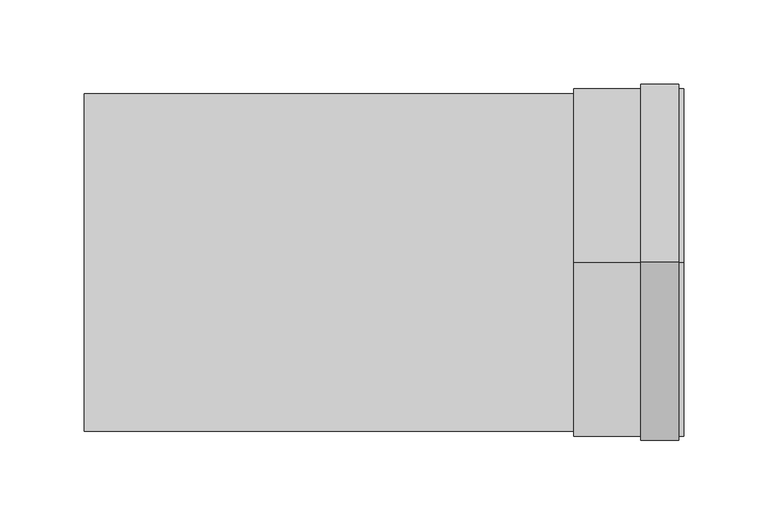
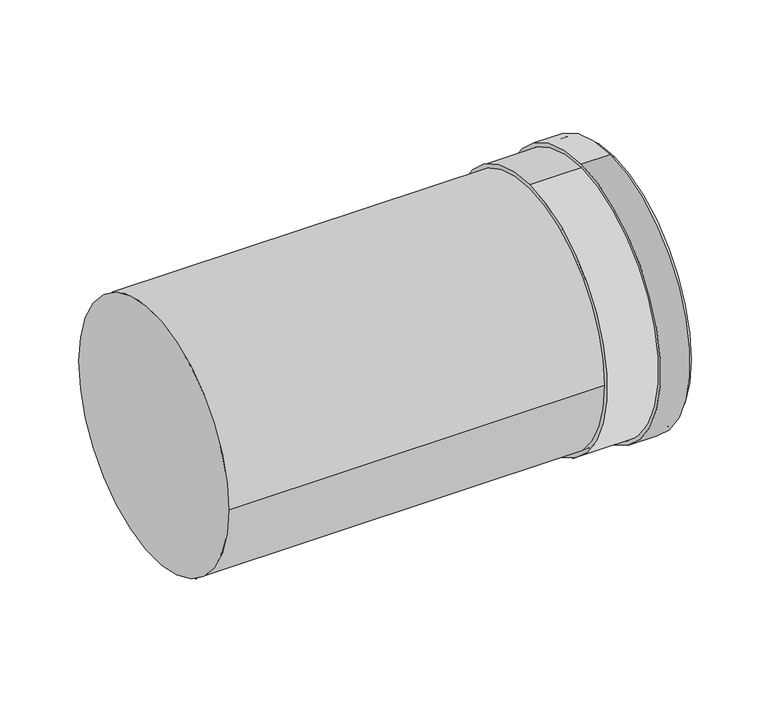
"""IFC4 building model written with IfcOpenShell, lengths in millimetres: duct fitting geometry, DERS_431_LFT_UN_Twinline Extension_M&G : ø130-150-200."""

from ifc_helpers import new_model, si_unit, point, frame, origin, origin_2d, place, context, project, spatial, polyline, circle_curve, trimmed, segment, composite_curve, outline, extrude, source, transform, mapped, element, save
from ifc_brep_helpers import plane_surface, cylinder_surface, revolved_surface, advanced_brep


def duct_fitting_61e90ce6(model_context):
    return source(origin(), model_context, "Body", "SolidModel", [
        extrude(outline(composite_curve([segment(trimmed(circle_curve(origin_2d(), 106.0), [point((0.0, 106.0))], [point((0.0, -106.0))], False, "CARTESIAN"), True, "CONTINUOUS"), segment(trimmed(circle_curve(origin_2d(), 106.0), [point((0.0, -106.0))], [point((0.0, 106.0))], False, "CARTESIAN"), True, "CONTINUOUS")], self_intersect=False), holes=[composite_curve([segment(trimmed(circle_curve(origin_2d(), 103.0), [point((0.0, -103.0))], [point((0.0, 103.0))], True, "CARTESIAN"), True, "CONTINUOUS"), segment(trimmed(circle_curve(origin_2d(), 103.0), [point((0.0, 103.0))], [point((0.0, -103.0))], True, "CARTESIAN"), True, "CONTINUOUS")], self_intersect=False)]), frame((329.4999761, 0.0, 0.0), z_axis=(1.0, 0.0, 0.0), x_axis=(0.0, 1.0, 0.0)), (0.0, 0.0, 1.0), 22.5),
        advanced_brep(
        [(354.9999761, 0.0, -103.0), (354.9999761, 0.0, 103.0), (354.9999761, 0.0, 99.0), (354.9999761, 0.0, -99.0), (289.9999761, 0.0, -103.0), (289.9999761, 0.0, 103.0), (294.9999761, 0.0, -99.0), (294.9999761, 0.0, 99.0)],
        [
            (0, 1, circle_curve(frame((354.9999761, 0.0, 0.0), z_axis=(1.0, 0.0, 0.0), x_axis=(0.0, 0.0, 1.0)), 103.0)),
            (1, 0, circle_curve(frame((354.9999761, 0.0, 0.0), z_axis=(1.0, 0.0, 0.0), x_axis=(0.0, 0.0, 1.0)), 103.0)),
            (2, 3, circle_curve(frame((354.9999761, 0.0, 0.0), z_axis=(-1.0, 0.0, 0.0), x_axis=(0.0, 0.0, 1.0)), 99.0)),
            (3, 2, circle_curve(frame((354.9999761, 0.0, 0.0), z_axis=(-1.0, 0.0, 0.0), x_axis=(0.0, 0.0, 1.0)), 99.0)),
            (4, 5, circle_curve(frame((289.9999761, 0.0, 0.0), z_axis=(-1.0, 0.0, 0.0), x_axis=(0.0, 0.0, 1.0)), 103.0)),
            (5, 4, circle_curve(frame((289.9999761, 0.0, 0.0), z_axis=(-1.0, 0.0, 0.0), x_axis=(0.0, 0.0, 1.0)), 103.0)),
            (0, 4),
            (5, 1),
            (6, 7, circle_curve(frame((294.9999761, 0.0, 0.0), z_axis=(1.0, 0.0, 0.0), x_axis=(0.0, 0.0, 1.0)), 99.0)),
            (7, 6, circle_curve(frame((294.9999761, 0.0, 0.0), z_axis=(1.0, 0.0, 0.0), x_axis=(0.0, 0.0, 1.0)), 99.0)),
            (6, 3),
            (2, 7),
        ],
        [
            plane_surface(frame((354.9999761, 0.0, 103.0), z_axis=(1.0, 0.0, 0.0), x_axis=(0.0, -1.0, 0.0))),
            plane_surface(frame((289.9999761, 0.0, 103.0), z_axis=(-1.0, 0.0, 0.0), x_axis=(0.0, 1.0, 0.0))),
            cylinder_surface(frame((289.9999761, 0.0, 0.0), z_axis=(1.0, 0.0, 0.0), x_axis=(0.0, 0.0, 1.0)), 103.0),
            plane_surface(frame((294.9999761, 0.0, 99.0), z_axis=(1.0, 0.0, 0.0), x_axis=(0.0, 1.0, 0.0))),
            revolved_surface(polyline([(354.9999761, 0.0, 99.0), (294.9999761, 0.0, 99.0)]), (294.9999761, 0.0, 0.0), (1.0, 0.0, 0.0)),
        ],
        [
            (0, [[1, 2], [3, 4]]),
            (1, [[5, 6]]),
            (2, [[-1, 7, -6, 8]]),
            (2, [[-2, -8, -5, -7]]),
            (3, [[9, 10]]),
            (4, [[-9, 11, -3, 12]]),
            (4, [[-10, -12, -4, -11]]),
        ],
    ),
        extrude(outline(composite_curve([segment(trimmed(circle_curve(origin_2d(), 100.0), [point((100.0, 0.0))], [point((-100.0, 0.0))], False, "CARTESIAN"), True, "CONTINUOUS"), segment(trimmed(circle_curve(origin_2d(), 100.0), [point((-100.0, 0.0))], [point((100.0, 0.0))], False, "CARTESIAN"), True, "CONTINUOUS")], self_intersect=False)), frame((-2.39e-05, 0.0, 0.0), z_axis=(1.0, 0.0, 0.0), x_axis=(0.0, 1.0, 0.0)), (0.0, 0.0, 1.0), 294.9999761),
    ])


if __name__ == "__main__":
    model = new_model("IFC4")
    model_context = context("Model", 3, world=origin())
    ifc_project = project(units=[si_unit("LENGTHUNIT", "METRE", prefix="MILLI")], contexts=[model_context])
    site = spatial("IfcSite", under=ifc_project)
    building = spatial("IfcBuilding", under=site)
    placement = place(None, origin())
    duct_fitting_shape = duct_fitting_61e90ce6(model_context)
    element("IfcDuctFitting", 1, ObjectType="DERS_431_LFT_UN_Twinline Extension_M&G : ø130-150-200", at=placement, inside=building, context=model_context, shape_type="MappedRepresentation", body=[
        mapped(duct_fitting_shape, transform((0.0, 0.0, 0.0), x_axis=(1.0, 0.0, 0.0), y_axis=(0.0, 1.0, 0.0), z_axis=(0.0, 0.0, 1.0))),
    ])
    save(model, "model.ifc")
